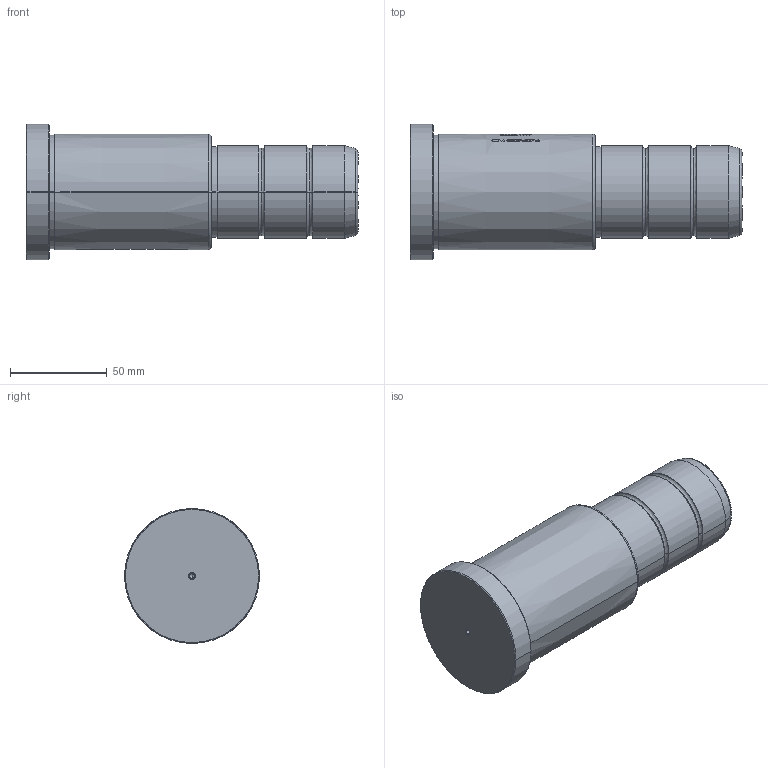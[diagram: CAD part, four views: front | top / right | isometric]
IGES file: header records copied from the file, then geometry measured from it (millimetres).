
Start section: SolidWorks IGES file using analytic representation for surfaces
Global section: file name: D:\TRIVECTOR\2026\08_Agosto\CM - COLUNA PRINCIPAL E31 (CATÁLOGO)\CM48096076.IGS; native system: SolidWorks 2024; preprocessor: SolidWorks 2024; author: Usuario; date: 260901.133921; units: millimetre
Bounding box: 172 x 70 x 70 mm (x, y, z)
Surface area: 37975.7 mm2 (no closed solid volume)
Topology: 0 solids, 0 shells, 478 faces, 5927 edges, 5923 vertices
Faces by surface type: bspline 393, revolution 85
